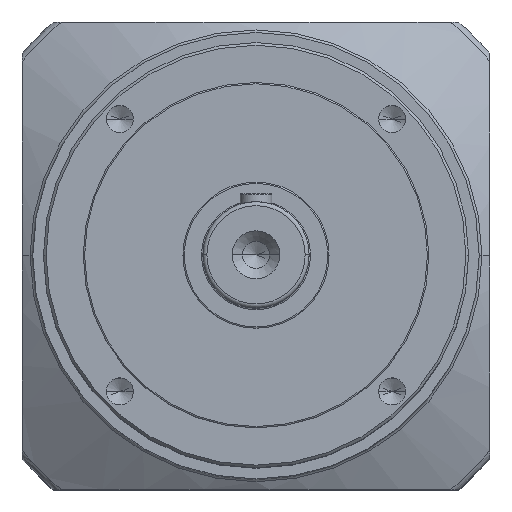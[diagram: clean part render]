
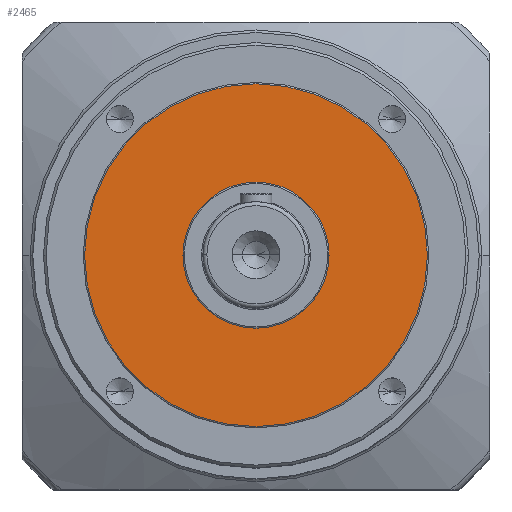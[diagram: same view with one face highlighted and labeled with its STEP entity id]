
A CAD part, top view. The second image highlights one B-rep face of the part: STEP entity #2465.
In plain terms, the highlighted planar face has unit normal (0, 0, 1).
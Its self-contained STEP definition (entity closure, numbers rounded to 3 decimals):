
#35 = AXIS2_PLACEMENT_3D ( 'NONE', #1456, #4632, #1915 ) ;
#305 = CIRCLE ( 'NONE', #3973, 27.5 ) ;
#456 = EDGE_CURVE ( 'NONE', #4515, #4172, #3099, .T. ) ;
#1297 = VERTEX_POINT ( 'NONE', #2627 ) ;
#1303 = CARTESIAN_POINT ( 'NONE',  ( 64.5, 0., 5. ) ) ;
#1456 = CARTESIAN_POINT ( 'NONE',  ( 0., 0., 5. ) ) ;
#1609 = DIRECTION ( 'NONE',  ( 0., 0., 1. ) ) ;
#1728 = FACE_OUTER_BOUND ( 'NONE', #2749, .T. ) ;
#1735 = PLANE ( 'NONE',  #5878 ) ;
#1915 = DIRECTION ( 'NONE',  ( 1., 0., 0. ) ) ;
#2043 = CARTESIAN_POINT ( 'NONE',  ( -64.5, 0., 5. ) ) ;
#2197 = AXIS2_PLACEMENT_3D ( 'NONE', #4236, #4075, #4229 ) ;
#2218 = DIRECTION ( 'NONE',  ( 0., 0., 1. ) ) ;
#2412 = CARTESIAN_POINT ( 'NONE',  ( 27.5, 0., 5. ) ) ;
#2465 = ADVANCED_FACE ( 'NONE', ( #2814, #1728 ), #1735, .T. ) ;
#2608 = EDGE_LOOP ( 'NONE', ( #4766, #4803 ) ) ;
#2627 = CARTESIAN_POINT ( 'NONE',  ( -27.5, 0., 5. ) ) ;
#2686 = DIRECTION ( 'NONE',  ( 1., 0., 0. ) ) ;
#2696 = AXIS2_PLACEMENT_3D ( 'NONE', #4946, #2218, #5410 ) ;
#2749 = EDGE_LOOP ( 'NONE', ( #4230, #5289 ) ) ;
#2814 = FACE_BOUND ( 'NONE', #2608, .T. ) ;
#3099 = CIRCLE ( 'NONE', #2197, 64.5 ) ;
#3274 = CIRCLE ( 'NONE', #35, 64.5 ) ;
#3713 = EDGE_CURVE ( 'NONE', #4772, #1297, #305, .T. ) ;
#3973 = AXIS2_PLACEMENT_3D ( 'NONE', #4340, #1609, #4793 ) ;
#4075 = DIRECTION ( 'NONE',  ( 0., 0., 1. ) ) ;
#4112 = CIRCLE ( 'NONE', #2696, 27.5 ) ;
#4172 = VERTEX_POINT ( 'NONE', #2043 ) ;
#4229 = DIRECTION ( 'NONE',  ( 1., 0., 0. ) ) ;
#4230 = ORIENTED_EDGE ( 'NONE', *, *, #456, .T. ) ;
#4236 = CARTESIAN_POINT ( 'NONE',  ( 0., 0., 5. ) ) ;
#4340 = CARTESIAN_POINT ( 'NONE',  ( 0., 0., 5. ) ) ;
#4515 = VERTEX_POINT ( 'NONE', #1303 ) ;
#4632 = DIRECTION ( 'NONE',  ( 0., 0., 1. ) ) ;
#4766 = ORIENTED_EDGE ( 'NONE', *, *, #3713, .F. ) ;
#4772 = VERTEX_POINT ( 'NONE', #2412 ) ;
#4793 = DIRECTION ( 'NONE',  ( 1., 0., 0. ) ) ;
#4803 = ORIENTED_EDGE ( 'NONE', *, *, #5114, .F. ) ;
#4932 = CARTESIAN_POINT ( 'NONE',  ( 0., 0., 5. ) ) ;
#4946 = CARTESIAN_POINT ( 'NONE',  ( 0., 0., 5. ) ) ;
#5114 = EDGE_CURVE ( 'NONE', #1297, #4772, #4112, .T. ) ;
#5289 = ORIENTED_EDGE ( 'NONE', *, *, #5322, .T. ) ;
#5322 = EDGE_CURVE ( 'NONE', #4172, #4515, #3274, .T. ) ;
#5399 = DIRECTION ( 'NONE',  ( 0., 0., 1. ) ) ;
#5410 = DIRECTION ( 'NONE',  ( 1., 0., 0. ) ) ;
#5878 = AXIS2_PLACEMENT_3D ( 'NONE', #4932, #5399, #2686 ) ;
